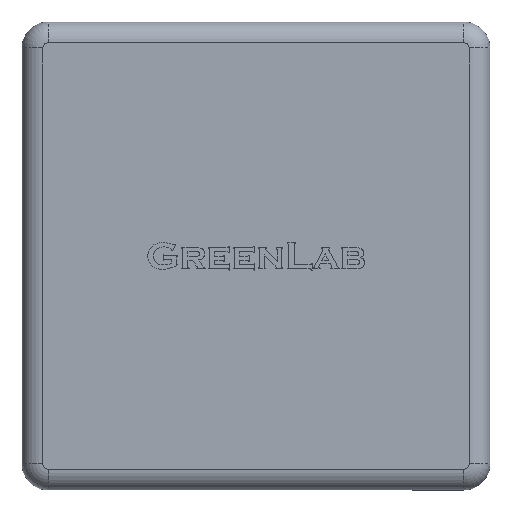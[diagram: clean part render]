
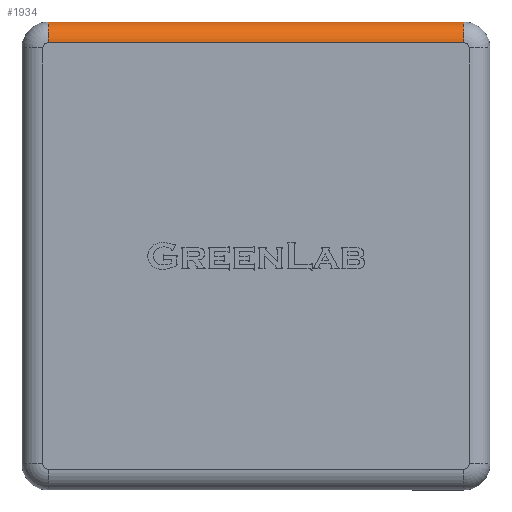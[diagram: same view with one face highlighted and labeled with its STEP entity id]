
A CAD part, top view. The second image highlights one B-rep face of the part: STEP entity #1934.
In plain terms, the highlighted cylindrical face has radius 2 mm (diameter 4 mm), a partial arc.
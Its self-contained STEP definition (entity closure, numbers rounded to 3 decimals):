
#238 = ORIENTED_EDGE ( 'NONE', *, *, #6867, .F. ) ;
#437 = DIRECTION ( 'NONE',  ( 0., -1., 0. ) ) ;
#816 = CARTESIAN_POINT ( 'NONE',  ( 20., 20.5, 3. ) ) ;
#834 = VERTEX_POINT ( 'NONE', #4777 ) ;
#1934 = ADVANCED_FACE ( 'NONE', ( #3612 ), #9967, .T. ) ;
#2171 = CARTESIAN_POINT ( 'NONE',  ( 20., 22.5, 1. ) ) ;
#2269 = CIRCLE ( 'NONE', #7940, 2. ) ;
#2420 = LINE ( 'NONE', #9363, #9097 ) ;
#2513 = CARTESIAN_POINT ( 'NONE',  ( 0., 20.5, 3. ) ) ;
#3269 = CARTESIAN_POINT ( 'NONE',  ( 20., 20.5, 1. ) ) ;
#3383 = VECTOR ( 'NONE', #7272, 1000. ) ;
#3492 = CARTESIAN_POINT ( 'NONE',  ( -20., 22.5, 1. ) ) ;
#3612 = FACE_OUTER_BOUND ( 'NONE', #3747, .T. ) ;
#3747 = EDGE_LOOP ( 'NONE', ( #4245, #5359, #238, #7081 ) ) ;
#4011 = EDGE_CURVE ( 'NONE', #9689, #6132, #2269, .T. ) ;
#4040 = LINE ( 'NONE', #2513, #3383 ) ;
#4245 = ORIENTED_EDGE ( 'NONE', *, *, #4011, .T. ) ;
#4468 = AXIS2_PLACEMENT_3D ( 'NONE', #8355, #7576, #437 ) ;
#4777 = CARTESIAN_POINT ( 'NONE',  ( -20., 20.5, 3. ) ) ;
#5359 = ORIENTED_EDGE ( 'NONE', *, *, #8317, .F. ) ;
#5394 = CIRCLE ( 'NONE', #9721, 2. ) ;
#5412 = DIRECTION ( 'NONE',  ( 1., 0., 0. ) ) ;
#5597 = DIRECTION ( 'NONE',  ( -1., 0., 0. ) ) ;
#5636 = DIRECTION ( 'NONE',  ( -1., 0., 0. ) ) ;
#6132 = VERTEX_POINT ( 'NONE', #2171 ) ;
#6422 = CARTESIAN_POINT ( 'NONE',  ( -20., 20.5, 1. ) ) ;
#6573 = EDGE_CURVE ( 'NONE', #9689, #834, #4040, .T. ) ;
#6867 = EDGE_CURVE ( 'NONE', #834, #7148, #5394, .T. ) ;
#7081 = ORIENTED_EDGE ( 'NONE', *, *, #6573, .F. ) ;
#7148 = VERTEX_POINT ( 'NONE', #3492 ) ;
#7207 = DIRECTION ( 'NONE',  ( 0., 0., 1. ) ) ;
#7272 = DIRECTION ( 'NONE',  ( -1., 0., 0. ) ) ;
#7576 = DIRECTION ( 'NONE',  ( -1., 0., 0. ) ) ;
#7940 = AXIS2_PLACEMENT_3D ( 'NONE', #3269, #5636, #8815 ) ;
#8317 = EDGE_CURVE ( 'NONE', #7148, #6132, #2420, .T. ) ;
#8355 = CARTESIAN_POINT ( 'NONE',  ( 0., 20.5, 1. ) ) ;
#8815 = DIRECTION ( 'NONE',  ( 0., 0., 1. ) ) ;
#9097 = VECTOR ( 'NONE', #5412, 1000. ) ;
#9363 = CARTESIAN_POINT ( 'NONE',  ( 22.5, 22.5, 1. ) ) ;
#9689 = VERTEX_POINT ( 'NONE', #816 ) ;
#9721 = AXIS2_PLACEMENT_3D ( 'NONE', #6422, #5597, #7207 ) ;
#9967 = CYLINDRICAL_SURFACE ( 'NONE', #4468, 2. ) ;
